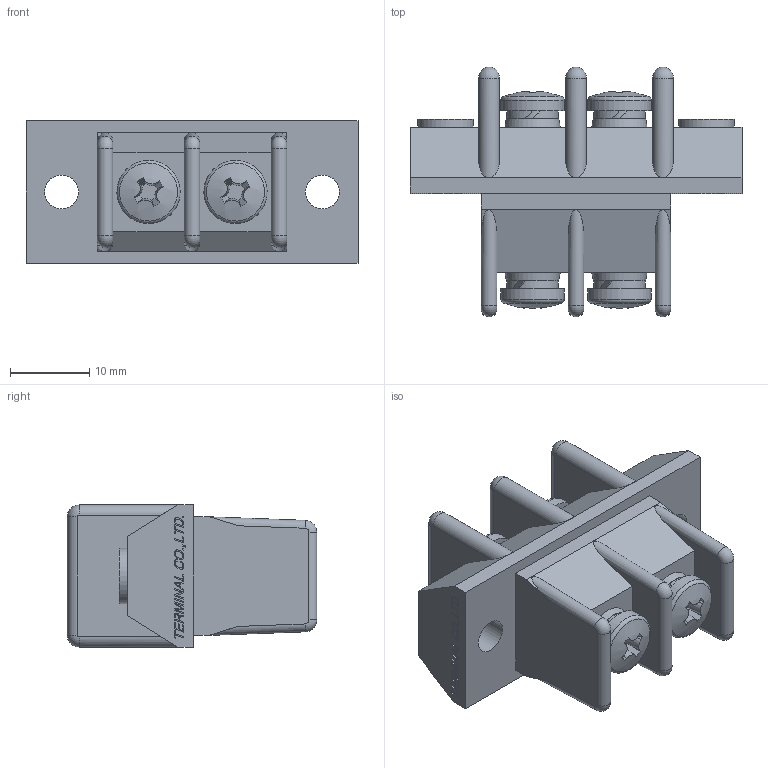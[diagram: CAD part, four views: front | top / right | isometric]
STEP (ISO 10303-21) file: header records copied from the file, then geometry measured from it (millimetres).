
FILE_DESCRIPTION(/* description */ ('Alibre Inc.'),/* implementation_level */ '2;1');
FILE_NAME(/* name */ 'export0',/* time_stamp */ '2016-01-16T17:52:17+09:00',/* author */ (''),/* organization */ (''),/* preprocessor_version */ 'ST-DEVELOPER v14',/* originating_system */ 'Alibre',/* authorisation */ '');
FILE_SCHEMA (('CONFIG_CONTROL_DESIGN'));
Length unit declared in the file: centimetre
Products named in the file (1): ID_1
Bounding box: 42 x 31.57 x 18 mm (x, y, z)
Volume: 10327.1 mm3; surface area: 5514.6 mm2
Topology: 1 solids, 3 shells, 561 faces, 1472 edges, 976 vertices
Faces by surface type: plane 377, bspline 104, cylinder 36, cone 24, torus 16, sphere 4
Full cylindrical faces by diameter (mm): 4 x2, 4.3 x2, 6.5 x4, 7 x2, 8 x4
Entity records: 16868 total; most frequent: CARTESIAN_POINT 4030, ORIENTED_EDGE 2892, DIRECTION 1950, EDGE_CURVE 1446, VECTOR 973, LINE 973, VERTEX_POINT 972, AXIS2_PLACEMENT_3D 677
